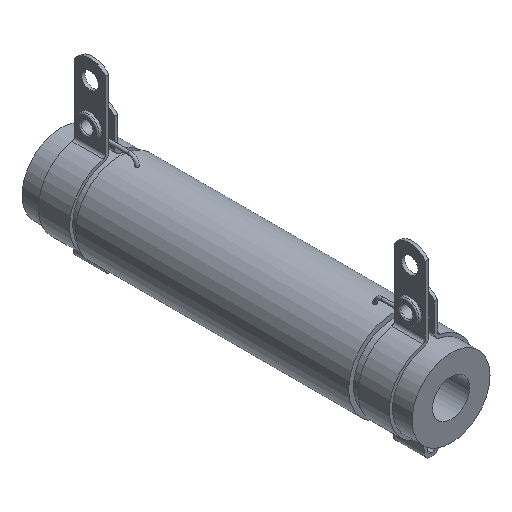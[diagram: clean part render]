
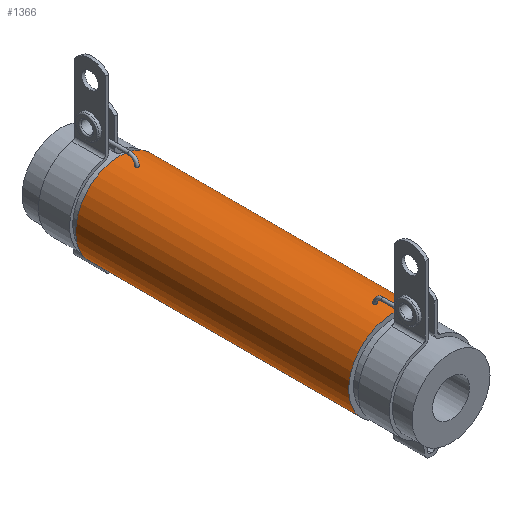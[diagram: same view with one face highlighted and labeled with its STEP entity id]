
A CAD part, isometric view. The second image highlights one B-rep face of the part: STEP entity #1366.
In plain terms, the highlighted cylindrical face has radius 11.25 mm (diameter 22.5 mm), a full revolution.
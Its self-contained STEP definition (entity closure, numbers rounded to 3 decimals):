
#147=B_SPLINE_CURVE_WITH_KNOTS($,3,(#2087,#2088,#2089,#2090,#2091,#2092,
#2093,#2094,#2095,#2096,#2097,#2098,#2099,#2100,#2101,#2102,#2103,#2104,
#2105,#2106,#2107,#2108,#2109,#2110,#2111,#2112,#2113,#2114,#2115,#2116,
#2117,#2118,#2119,#2120,#2121,#2122),.UNSPECIFIED.,.T.,.F.,(4,2,2,2,2,2,
2,2,2,2,2,2,2,2,2,2,2,4),(0.,0.016,0.031,0.047,
0.062,0.078,0.094,0.109,
0.125,0.141,0.156,0.172,
0.188,0.203,0.219,0.234,
0.243,0.252),.UNSPECIFIED.);
#148=B_SPLINE_CURVE_WITH_KNOTS($,3,(#2124,#2125,#2126,#2127,#2128,#2129,
#2130,#2131,#2132,#2133,#2134,#2135,#2136,#2137,#2138,#2139,#2140,#2141,
#2142,#2143,#2144,#2145,#2146,#2147,#2148,#2149,#2150,#2151,#2152,#2153,
#2154,#2155,#2156,#2157,#2158,#2159),.UNSPECIFIED.,.T.,.F.,(4,2,2,2,2,2,
2,2,2,2,2,2,2,2,2,2,2,4),(0.,0.016,0.031,0.047,
0.062,0.078,0.094,0.109,
0.125,0.141,0.156,0.172,
0.188,0.203,0.219,0.234,
0.243,0.252),.UNSPECIFIED.);
#177=FACE_BOUND($,#372,.T.);
#178=FACE_BOUND($,#373,.T.);
#179=FACE_BOUND($,#374,.T.);
#180=FACE_BOUND($,#375,.T.);
#251=CYLINDRICAL_SURFACE($,#1468,11.25);
#372=EDGE_LOOP($,(#918));
#373=EDGE_LOOP($,(#919));
#374=EDGE_LOOP($,(#920));
#375=EDGE_LOOP($,(#921));
#511=CIRCLE($,#1469,11.25);
#512=CIRCLE($,#1470,11.25);
#604=VERTEX_POINT($,#2086);
#605=VERTEX_POINT($,#2123);
#606=VERTEX_POINT($,#2160);
#607=VERTEX_POINT($,#2162);
#736=EDGE_CURVE($,#604,#604,#147,.T.);
#737=EDGE_CURVE($,#605,#605,#148,.T.);
#738=EDGE_CURVE($,#606,#606,#511,.T.);
#739=EDGE_CURVE($,#607,#607,#512,.T.);
#918=ORIENTED_EDGE($,*,*,#736,.T.);
#919=ORIENTED_EDGE($,*,*,#737,.T.);
#920=ORIENTED_EDGE($,*,*,#738,.T.);
#921=ORIENTED_EDGE($,*,*,#739,.F.);
#1366=ADVANCED_FACE($,(#177,#178,#179,#180),#251,.T.);
#1468=AXIS2_PLACEMENT_3D($,#2085,#1662,#1663);
#1469=AXIS2_PLACEMENT_3D($,#2161,#1664,#1665);
#1470=AXIS2_PLACEMENT_3D($,#2163,#1666,#1667);
#1662=DIRECTION('center_axis',(0.,1.,0.));
#1663=DIRECTION('ref_axis',(0.757,0.,0.653));
#1664=DIRECTION('center_axis',(0.,-1.,0.));
#1665=DIRECTION('ref_axis',(0.757,0.,0.653));
#1666=DIRECTION('center_axis',(0.,-1.,0.));
#1667=DIRECTION('ref_axis',(0.757,0.,0.653));
#2085=CARTESIAN_POINT('Origin',(21.645,61.577,19.693));
#2086=CARTESIAN_POINT('',(21.645,66.477,30.943));
#2087=CARTESIAN_POINT('Ctrl Pts',(21.645,66.477,30.943));
#2088=CARTESIAN_POINT('Ctrl Pts',(21.697,66.477,30.943));
#2089=CARTESIAN_POINT('Ctrl Pts',(21.749,66.467,30.942));
#2090=CARTESIAN_POINT('Ctrl Pts',(21.845,66.427,30.941));
#2091=CARTESIAN_POINT('Ctrl Pts',(21.889,66.398,30.94));
#2092=CARTESIAN_POINT('Ctrl Pts',(21.963,66.325,30.938));
#2093=CARTESIAN_POINT('Ctrl Pts',(21.993,66.281,30.937));
#2094=CARTESIAN_POINT('Ctrl Pts',(22.034,66.186,30.936));
#2095=CARTESIAN_POINT('Ctrl Pts',(22.045,66.134,30.936));
#2096=CARTESIAN_POINT('Ctrl Pts',(22.046,66.03,30.936));
#2097=CARTESIAN_POINT('Ctrl Pts',(22.036,65.978,30.936));
#2098=CARTESIAN_POINT('Ctrl Pts',(21.998,65.881,30.937));
#2099=CARTESIAN_POINT('Ctrl Pts',(21.97,65.837,30.938));
#2100=CARTESIAN_POINT('Ctrl Pts',(21.898,65.762,30.94));
#2101=CARTESIAN_POINT('Ctrl Pts',(21.854,65.732,30.941));
#2102=CARTESIAN_POINT('Ctrl Pts',(21.759,65.689,30.942));
#2103=CARTESIAN_POINT('Ctrl Pts',(21.708,65.678,30.943));
#2104=CARTESIAN_POINT('Ctrl Pts',(21.604,65.675,30.943));
#2105=CARTESIAN_POINT('Ctrl Pts',(21.552,65.684,30.942));
#2106=CARTESIAN_POINT('Ctrl Pts',(21.455,65.721,30.941));
#2107=CARTESIAN_POINT('Ctrl Pts',(21.41,65.749,30.94));
#2108=CARTESIAN_POINT('Ctrl Pts',(21.334,65.82,30.938));
#2109=CARTESIAN_POINT('Ctrl Pts',(21.303,65.862,30.938));
#2110=CARTESIAN_POINT('Ctrl Pts',(21.26,65.957,30.936));
#2111=CARTESIAN_POINT('Ctrl Pts',(21.248,66.008,30.936));
#2112=CARTESIAN_POINT('Ctrl Pts',(21.243,66.113,30.936));
#2113=CARTESIAN_POINT('Ctrl Pts',(21.252,66.165,30.936));
#2114=CARTESIAN_POINT('Ctrl Pts',(21.287,66.262,30.937));
#2115=CARTESIAN_POINT('Ctrl Pts',(21.314,66.307,30.938));
#2116=CARTESIAN_POINT('Ctrl Pts',(21.384,66.384,30.94));
#2117=CARTESIAN_POINT('Ctrl Pts',(21.427,66.416,30.941));
#2118=CARTESIAN_POINT('Ctrl Pts',(21.5,66.451,30.942));
#2119=CARTESIAN_POINT('Ctrl Pts',(21.528,66.46,30.942));
#2120=CARTESIAN_POINT('Ctrl Pts',(21.586,66.473,30.943));
#2121=CARTESIAN_POINT('Ctrl Pts',(21.616,66.477,30.943));
#2122=CARTESIAN_POINT('Ctrl Pts',(21.645,66.477,30.943));
#2123=CARTESIAN_POINT('',(21.645,126.678,30.943));
#2124=CARTESIAN_POINT('Ctrl Pts',(21.645,126.678,30.943));
#2125=CARTESIAN_POINT('Ctrl Pts',(21.593,126.678,30.943));
#2126=CARTESIAN_POINT('Ctrl Pts',(21.542,126.688,30.942));
#2127=CARTESIAN_POINT('Ctrl Pts',(21.445,126.727,30.941));
#2128=CARTESIAN_POINT('Ctrl Pts',(21.401,126.756,30.94));
#2129=CARTESIAN_POINT('Ctrl Pts',(21.327,126.83,30.938));
#2130=CARTESIAN_POINT('Ctrl Pts',(21.298,126.873,30.937));
#2131=CARTESIAN_POINT('Ctrl Pts',(21.257,126.969,30.936));
#2132=CARTESIAN_POINT('Ctrl Pts',(21.246,127.02,30.936));
#2133=CARTESIAN_POINT('Ctrl Pts',(21.245,127.124,30.936));
#2134=CARTESIAN_POINT('Ctrl Pts',(21.254,127.176,30.936));
#2135=CARTESIAN_POINT('Ctrl Pts',(21.292,127.273,30.937));
#2136=CARTESIAN_POINT('Ctrl Pts',(21.321,127.317,30.938));
#2137=CARTESIAN_POINT('Ctrl Pts',(21.393,127.393,30.94));
#2138=CARTESIAN_POINT('Ctrl Pts',(21.436,127.423,30.941));
#2139=CARTESIAN_POINT('Ctrl Pts',(21.531,127.465,30.942));
#2140=CARTESIAN_POINT('Ctrl Pts',(21.583,127.476,30.943));
#2141=CARTESIAN_POINT('Ctrl Pts',(21.687,127.479,30.943));
#2142=CARTESIAN_POINT('Ctrl Pts',(21.738,127.47,30.942));
#2143=CARTESIAN_POINT('Ctrl Pts',(21.836,127.434,30.941));
#2144=CARTESIAN_POINT('Ctrl Pts',(21.88,127.406,30.94));
#2145=CARTESIAN_POINT('Ctrl Pts',(21.956,127.335,30.938));
#2146=CARTESIAN_POINT('Ctrl Pts',(21.987,127.292,30.938));
#2147=CARTESIAN_POINT('Ctrl Pts',(22.031,127.197,30.936));
#2148=CARTESIAN_POINT('Ctrl Pts',(22.043,127.146,30.936));
#2149=CARTESIAN_POINT('Ctrl Pts',(22.047,127.042,30.936));
#2150=CARTESIAN_POINT('Ctrl Pts',(22.039,126.99,30.936));
#2151=CARTESIAN_POINT('Ctrl Pts',(22.003,126.892,30.937));
#2152=CARTESIAN_POINT('Ctrl Pts',(21.976,126.847,30.938));
#2153=CARTESIAN_POINT('Ctrl Pts',(21.906,126.77,30.94));
#2154=CARTESIAN_POINT('Ctrl Pts',(21.864,126.739,30.941));
#2155=CARTESIAN_POINT('Ctrl Pts',(21.79,126.704,30.942));
#2156=CARTESIAN_POINT('Ctrl Pts',(21.762,126.694,30.942));
#2157=CARTESIAN_POINT('Ctrl Pts',(21.704,126.681,30.943));
#2158=CARTESIAN_POINT('Ctrl Pts',(21.675,126.678,30.943));
#2159=CARTESIAN_POINT('Ctrl Pts',(21.645,126.678,30.943));
#2160=CARTESIAN_POINT('',(13.129,131.577,12.341));
#2161=CARTESIAN_POINT('Origin',(21.645,131.577,19.693));
#2162=CARTESIAN_POINT('',(13.129,61.577,12.341));
#2163=CARTESIAN_POINT('Origin',(21.645,61.577,19.693));
